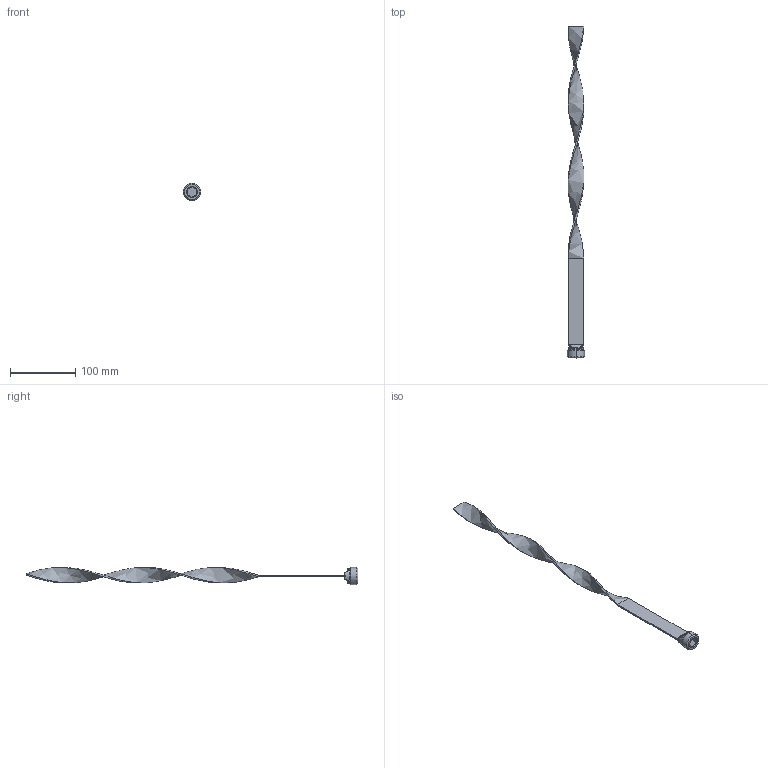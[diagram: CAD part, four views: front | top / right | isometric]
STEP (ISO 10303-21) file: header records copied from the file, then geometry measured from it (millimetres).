
FILE_DESCRIPTION (( 'STEP AP203' ), '1' );
FILE_NAME ('TB75L20.step', '2023-03-09T10:55:09', ( '' ), ( '' ), 'SwSTEP 2.0', 'SolidWorks 2020', '' );
FILE_SCHEMA (( 'CONFIG_CONTROL_DESIGN' ));
Length unit declared in the file: inch
Products named in the file (1): TB75L20
Bounding box: 26.3 x 508 x 26.3 mm (x, y, z)
Volume: 34145.4 mm3; surface area: 28543.7 mm2
Topology: 1 solids, 1 shells, 48 faces, 118 edges, 74 vertices
Faces by surface type: plane 20, bspline 14, cylinder 8, cone 6
Entity records: 2586 total; most frequent: CARTESIAN_POINT 1476, ORIENTED_EDGE 236, DIRECTION 176, EDGE_CURVE 118, VERTEX_POINT 74, AXIS2_PLACEMENT_3D 63, LINE 50, EDGE_LOOP 50
